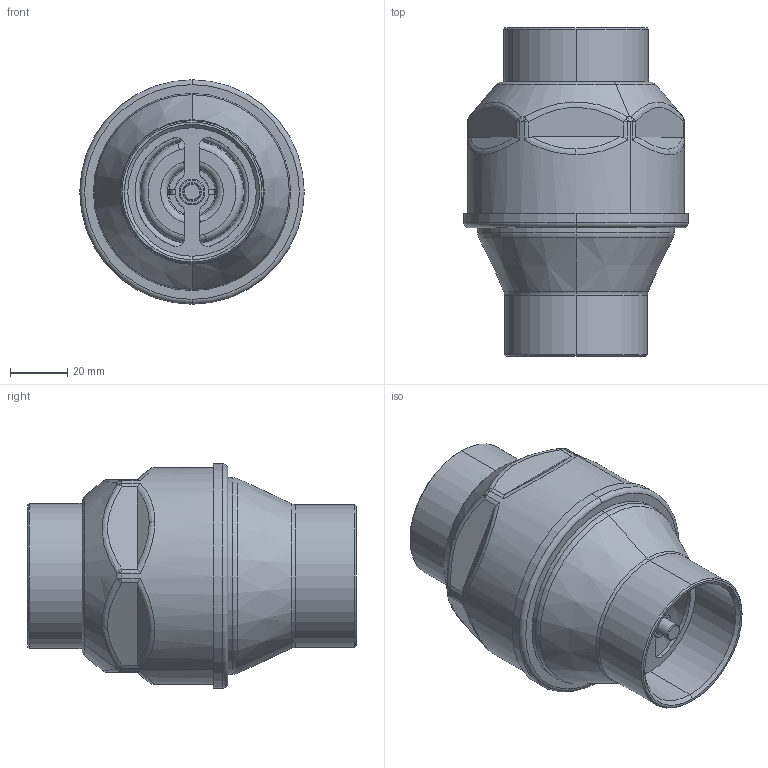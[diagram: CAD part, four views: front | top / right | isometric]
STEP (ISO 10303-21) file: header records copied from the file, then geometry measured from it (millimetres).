
FILE_DESCRIPTION (( 'STEP AP203' ), '1' );
FILE_NAME ('06N1714 G 1 1_2.STEP', '2021-02-18T12:41:19', ( '' ), ( '' ), 'SwSTEP 2.0', 'SolidWorks 2016', '' );
FILE_SCHEMA (( 'CONFIG_CONTROL_DESIGN' ));
Length unit declared in the file: millimetre
Products named in the file (15): 06N1715; 06N1717; 06I0607 X 1 1_2; 06N1718-01; 06N1716; 05N9702 X 1 1_2; 06I9610 X 1 1_2; 06I9604 X 1 1-2; 06D1815; 04D9905 X 1 1_2; 06N1714 G 1 1_2; 06I0608 X 1 1_2; 05A1803; 06I9603 X 1 1_2; 06F97003 X 1 1_2
Assembly tree (14 placements, depth 3):
  06N1714 G 1 1_2
    06I9610 X 1 1_2
    04D9905 X 1 1_2
    06I9603 X 1 1_2
    05N9702 X 1 1_2
    06I9604 X 1 1-2
    06I0607 X 1 1_2
    06I0608 X 1 1_2
    06F97003 X 1 1_2
    06N1715
      06N1716
      06N1717
    06D1815
      06N1718-01
      05A1803
Bounding box: 78.6 x 115 x 78.6 mm (x, y, z)
Volume: 64466.9 mm3; surface area: 80930 mm2
Topology: 12 solids, 12 shells, 458 faces, 1101 edges, 660 vertices
Faces by surface type: cylinder 142, plane 103, torus 95, bspline 86, cone 32
Entity records: 21581 total; most frequent: CARTESIAN_POINT 9904, ORIENTED_EDGE 2154, DIRECTION 2118, EDGE_CURVE 1077, AXIS2_PLACEMENT_3D 904, VERTEX_POINT 660, CIRCLE 513, EDGE_LOOP 499
